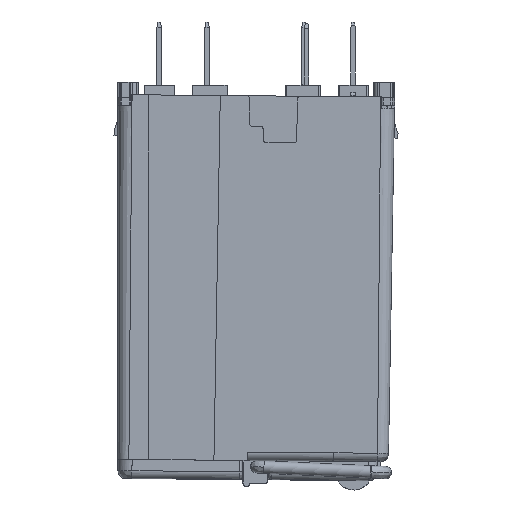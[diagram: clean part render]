
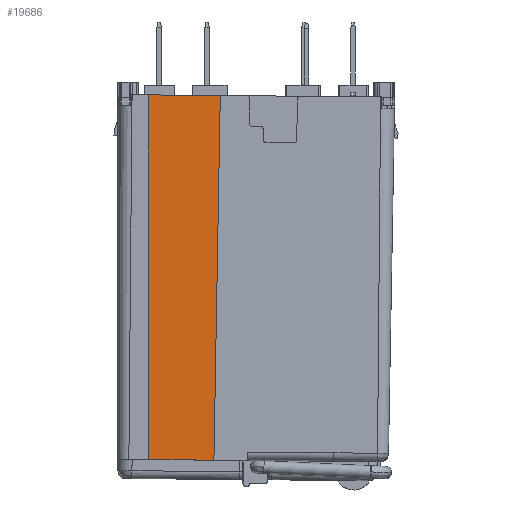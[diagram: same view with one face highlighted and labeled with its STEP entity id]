
A CAD part, left-side view. The second image highlights one B-rep face of the part: STEP entity #19686.
In plain terms, the highlighted planar face has unit normal (-1, 0, -0.009).
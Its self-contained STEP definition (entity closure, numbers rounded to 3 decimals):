
#211 = VERTEX_POINT ( 'NONE', #40860 ) ;
#2845 = AXIS2_PLACEMENT_3D ( 'NONE', #19831, #19765, #19646 ) ;
#5432 = DIRECTION ( 'NONE',  ( 0., 1., 0.009 ) ) ;
#6201 = CARTESIAN_POINT ( 'NONE',  ( -20.685, 9.635, -67.032 ) ) ;
#7975 = VECTOR ( 'NONE', #25397, 1000. ) ;
#8223 = LINE ( 'NONE', #18810, #53878 ) ;
#8680 = VERTEX_POINT ( 'NONE', #47391 ) ;
#10282 = EDGE_CURVE ( 'NONE', #8680, #55917, #15949, .T. ) ;
#11720 = LINE ( 'NONE', #20985, #47072 ) ;
#12092 = ORIENTED_EDGE ( 'NONE', *, *, #22632, .F. ) ;
#15005 = CARTESIAN_POINT ( 'NONE',  ( -20.685, 17.612, -66.964 ) ) ;
#15949 = LINE ( 'NONE', #32586, #26430 ) ;
#16372 = CARTESIAN_POINT ( 'NONE',  ( -20.685, 21.305, -66.932 ) ) ;
#16818 = CARTESIAN_POINT ( 'NONE',  ( -20.685, 9.635, -67.032 ) ) ;
#16850 = EDGE_CURVE ( 'NONE', #8680, #37555, #27291, .T. ) ;
#18810 = CARTESIAN_POINT ( 'NONE',  ( -20.685, 17.612, -66.962 ) ) ;
#19646 = DIRECTION ( 'NONE',  ( 0.009, 0., -1. ) ) ;
#19686 = ADVANCED_FACE ( 'NONE', ( #52503 ), #20353, .F. ) ;
#19765 = DIRECTION ( 'NONE',  ( 1., 0., 0.009 ) ) ;
#19831 = CARTESIAN_POINT ( 'NONE',  ( -20.685, 9.635, -67.034 ) ) ;
#20353 = PLANE ( 'NONE',  #2845 ) ;
#20985 = CARTESIAN_POINT ( 'NONE',  ( -20.685, 17.612, -66.964 ) ) ;
#21821 = CARTESIAN_POINT ( 'NONE',  ( -21.25, 21.305, -2.23 ) ) ;
#22632 = EDGE_CURVE ( 'NONE', #37555, #211, #23367, .T. ) ;
#23304 = DIRECTION ( 'NONE',  ( 0.009, 0.007, -1. ) ) ;
#23367 = LINE ( 'NONE', #6201, #32313 ) ;
#25397 = DIRECTION ( 'NONE',  ( -0.009, 0., 1. ) ) ;
#25462 = DIRECTION ( 'NONE',  ( 0., 1., 0.009 ) ) ;
#26430 = VECTOR ( 'NONE', #32897, 1000. ) ;
#27291 = LINE ( 'NONE', #50762, #38974 ) ;
#28514 = EDGE_CURVE ( 'NONE', #51817, #54275, #11720, .T. ) ;
#30314 = LINE ( 'NONE', #55992, #7975 ) ;
#30577 = EDGE_CURVE ( 'NONE', #54275, #55917, #30314, .T. ) ;
#32313 = VECTOR ( 'NONE', #5432, 1000. ) ;
#32586 = CARTESIAN_POINT ( 'NONE',  ( -21.25, 24.155, -2.205 ) ) ;
#32844 = ORIENTED_EDGE ( 'NONE', *, *, #16850, .F. ) ;
#32897 = DIRECTION ( 'NONE',  ( 0., 1., 0.009 ) ) ;
#33367 = EDGE_CURVE ( 'NONE', #211, #51817, #8223, .T. ) ;
#37555 = VERTEX_POINT ( 'NONE', #16818 ) ;
#38974 = VECTOR ( 'NONE', #51863, 1000. ) ;
#39989 = ORIENTED_EDGE ( 'NONE', *, *, #33367, .F. ) ;
#40860 = CARTESIAN_POINT ( 'NONE',  ( -20.685, 17.612, -66.962 ) ) ;
#47072 = VECTOR ( 'NONE', #25462, 1000. ) ;
#47103 = EDGE_LOOP ( 'NONE', ( #51016, #49131, #50405, #39989, #12092, #32844 ) ) ;
#47391 = CARTESIAN_POINT ( 'NONE',  ( -21.25, 8.506, -2.341 ) ) ;
#49131 = ORIENTED_EDGE ( 'NONE', *, *, #30577, .F. ) ;
#50405 = ORIENTED_EDGE ( 'NONE', *, *, #28514, .F. ) ;
#50762 = CARTESIAN_POINT ( 'NONE',  ( -21.25, 8.506, -2.341 ) ) ;
#51016 = ORIENTED_EDGE ( 'NONE', *, *, #10282, .T. ) ;
#51817 = VERTEX_POINT ( 'NONE', #15005 ) ;
#51863 = DIRECTION ( 'NONE',  ( 0.009, 0.017, -1. ) ) ;
#52503 = FACE_OUTER_BOUND ( 'NONE', #47103, .T. ) ;
#53878 = VECTOR ( 'NONE', #23304, 1000. ) ;
#54275 = VERTEX_POINT ( 'NONE', #16372 ) ;
#55917 = VERTEX_POINT ( 'NONE', #21821 ) ;
#55992 = CARTESIAN_POINT ( 'NONE',  ( -20.685, 21.305, -66.932 ) ) ;
